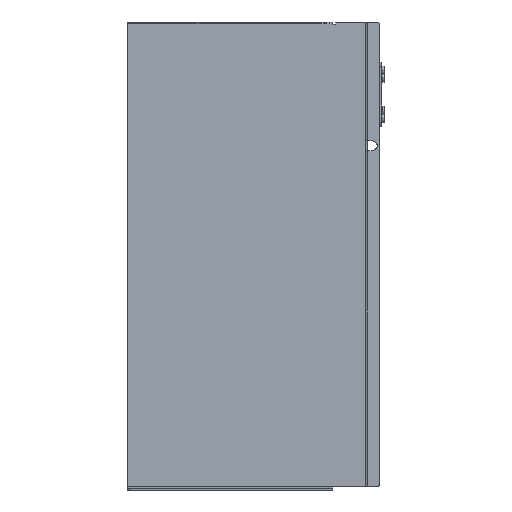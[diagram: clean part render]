
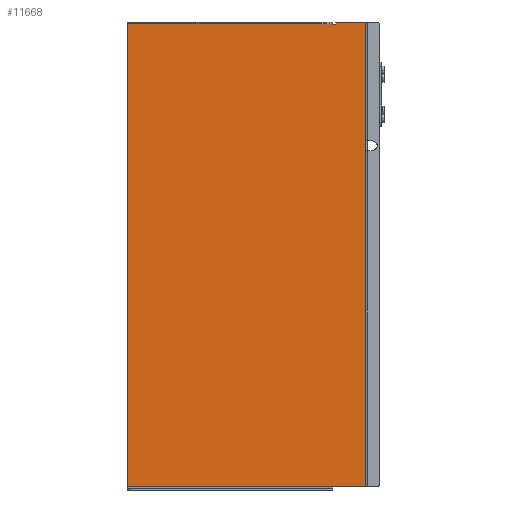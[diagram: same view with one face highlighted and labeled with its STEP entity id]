
A CAD part, left-side view. The second image highlights one B-rep face of the part: STEP entity #11668.
In plain terms, the highlighted planar face has unit normal (-1, 0, 0).
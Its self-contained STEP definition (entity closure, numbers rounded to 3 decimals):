
#205 = LINE ( 'NONE', #8840, #9049 ) ;
#212 = CARTESIAN_POINT ( 'NONE',  ( 0., 18.7, 143.5 ) ) ;
#302 = VERTEX_POINT ( 'NONE', #3885 ) ;
#480 = CARTESIAN_POINT ( 'NONE',  ( 0., 148., 145. ) ) ;
#987 = EDGE_CURVE ( 'NONE', #7783, #5165, #11604, .T. ) ;
#1216 = EDGE_CURVE ( 'NONE', #7815, #11454, #205, .T. ) ;
#1445 = VECTOR ( 'NONE', #11413, 1000. ) ;
#1520 = DIRECTION ( 'NONE',  ( 0., 0., -1. ) ) ;
#1643 = AXIS2_PLACEMENT_3D ( 'NONE', #6717, #14858, #7867 ) ;
#1827 = EDGE_CURVE ( 'NONE', #11901, #2443, #5942, .T. ) ;
#1997 = VECTOR ( 'NONE', #9707, 1000. ) ;
#2131 = VERTEX_POINT ( 'NONE', #212 ) ;
#2140 = EDGE_CURVE ( 'NONE', #12337, #7783, #5752, .T. ) ;
#2141 = VECTOR ( 'NONE', #9846, 1000. ) ;
#2443 = VERTEX_POINT ( 'NONE', #10938 ) ;
#2602 = AXIS2_PLACEMENT_3D ( 'NONE', #4836, #12979, #6000 ) ;
#2844 = DIRECTION ( 'NONE',  ( 0., 0., -1. ) ) ;
#2871 = VECTOR ( 'NONE', #14168, 1000. ) ;
#3580 = ORIENTED_EDGE ( 'NONE', *, *, #13028, .T. ) ;
#3885 = CARTESIAN_POINT ( 'NONE',  ( 0., 20.5, 143.7 ) ) ;
#4219 = ORIENTED_EDGE ( 'NONE', *, *, #8745, .T. ) ;
#4332 = LINE ( 'NONE', #4981, #10113 ) ;
#4836 = CARTESIAN_POINT ( 'NONE',  ( 0., 18.3, 144.8 ) ) ;
#4981 = CARTESIAN_POINT ( 'NONE',  ( 0., 20.5, 143.5 ) ) ;
#5017 = EDGE_CURVE ( 'NONE', #7815, #11901, #11235, .T. ) ;
#5165 = VERTEX_POINT ( 'NONE', #14616 ) ;
#5235 = DIRECTION ( 'NONE',  ( 0., -1., 0. ) ) ;
#5732 = EDGE_CURVE ( 'NONE', #2131, #6245, #4332, .T. ) ;
#5752 = CIRCLE ( 'NONE', #2602, 0.2 ) ;
#5942 = LINE ( 'NONE', #10625, #2871 ) ;
#6000 = DIRECTION ( 'NONE',  ( 0., 0., -1. ) ) ;
#6091 = CARTESIAN_POINT ( 'NONE',  ( 0., 18.7, 143.7 ) ) ;
#6152 = VECTOR ( 'NONE', #11062, 1000. ) ;
#6187 = CARTESIAN_POINT ( 'NONE',  ( 0., 148., 143.8 ) ) ;
#6245 = VERTEX_POINT ( 'NONE', #13060 ) ;
#6295 = CARTESIAN_POINT ( 'NONE',  ( 0., 20.5, 143.8 ) ) ;
#6717 = CARTESIAN_POINT ( 'NONE',  ( 0., 20.3, 143.7 ) ) ;
#6907 = ORIENTED_EDGE ( 'NONE', *, *, #5732, .T. ) ;
#7086 = CARTESIAN_POINT ( 'NONE',  ( 0., 18.5, 144.8 ) ) ;
#7215 = LINE ( 'NONE', #7957, #1445 ) ;
#7256 = DIRECTION ( 'NONE',  ( 0., 0., -1. ) ) ;
#7261 = DIRECTION ( 'NONE',  ( 0., 1., 0. ) ) ;
#7276 = CARTESIAN_POINT ( 'NONE',  ( 0., 0., 145. ) ) ;
#7586 = CARTESIAN_POINT ( 'NONE',  ( 0., 148., -144. ) ) ;
#7783 = VERTEX_POINT ( 'NONE', #13112 ) ;
#7815 = VERTEX_POINT ( 'NONE', #6187 ) ;
#7867 = DIRECTION ( 'NONE',  ( 0., 0., -1. ) ) ;
#7876 = EDGE_CURVE ( 'NONE', #11454, #302, #11501, .T. ) ;
#7957 = CARTESIAN_POINT ( 'NONE',  ( 0., 18.5, 145. ) ) ;
#8404 = VECTOR ( 'NONE', #2844, 1000. ) ;
#8433 = DIRECTION ( 'NONE',  ( -1., 0., 0. ) ) ;
#8745 = EDGE_CURVE ( 'NONE', #6245, #302, #10922, .T. ) ;
#8840 = CARTESIAN_POINT ( 'NONE',  ( 0., 0., 143.8 ) ) ;
#8943 = EDGE_CURVE ( 'NONE', #2131, #13990, #14957, .T. ) ;
#9029 = CARTESIAN_POINT ( 'NONE',  ( 0., 0., 145. ) ) ;
#9049 = VECTOR ( 'NONE', #5235, 1000. ) ;
#9360 = ORIENTED_EDGE ( 'NONE', *, *, #14036, .T. ) ;
#9386 = ORIENTED_EDGE ( 'NONE', *, *, #1216, .F. ) ;
#9699 = ORIENTED_EDGE ( 'NONE', *, *, #5017, .T. ) ;
#9707 = DIRECTION ( 'NONE',  ( 0., 0., -1. ) ) ;
#9846 = DIRECTION ( 'NONE',  ( 0., 0., 1. ) ) ;
#9977 = ORIENTED_EDGE ( 'NONE', *, *, #987, .F. ) ;
#10113 = VECTOR ( 'NONE', #7261, 1000. ) ;
#10156 = AXIS2_PLACEMENT_3D ( 'NONE', #6091, #14252, #7256 ) ;
#10357 = CARTESIAN_POINT ( 'NONE',  ( 0., 20.5, 143.8 ) ) ;
#10393 = ORIENTED_EDGE ( 'NONE', *, *, #7876, .F. ) ;
#10625 = CARTESIAN_POINT ( 'NONE',  ( 0., 20.5, -144. ) ) ;
#10922 = CIRCLE ( 'NONE', #1643, 0.2 ) ;
#10938 = CARTESIAN_POINT ( 'NONE',  ( 0., 0., -144. ) ) ;
#10975 = ORIENTED_EDGE ( 'NONE', *, *, #1827, .T. ) ;
#11001 = EDGE_LOOP ( 'NONE', ( #4219, #10393, #9386, #9699, #10975, #3580, #9977, #11238, #9360, #12168, #6907 ) ) ;
#11062 = DIRECTION ( 'NONE',  ( 0., -1., 0. ) ) ;
#11235 = LINE ( 'NONE', #480, #1997 ) ;
#11238 = ORIENTED_EDGE ( 'NONE', *, *, #2140, .F. ) ;
#11413 = DIRECTION ( 'NONE',  ( 0., 0., -1. ) ) ;
#11454 = VERTEX_POINT ( 'NONE', #10357 ) ;
#11501 = LINE ( 'NONE', #6295, #8404 ) ;
#11581 = AXIS2_PLACEMENT_3D ( 'NONE', #7276, #8433, #1520 ) ;
#11604 = LINE ( 'NONE', #9029, #6152 ) ;
#11650 = FACE_OUTER_BOUND ( 'NONE', #11001, .T. ) ;
#11668 = ADVANCED_FACE ( 'NONE', ( #11650 ), #14270, .T. ) ;
#11901 = VERTEX_POINT ( 'NONE', #7586 ) ;
#12168 = ORIENTED_EDGE ( 'NONE', *, *, #8943, .F. ) ;
#12220 = CARTESIAN_POINT ( 'NONE',  ( 0., 0., 145. ) ) ;
#12337 = VERTEX_POINT ( 'NONE', #7086 ) ;
#12513 = CARTESIAN_POINT ( 'NONE',  ( 0., 18.5, 143.7 ) ) ;
#12979 = DIRECTION ( 'NONE',  ( 1., 0., 0. ) ) ;
#13028 = EDGE_CURVE ( 'NONE', #2443, #5165, #14516, .T. ) ;
#13060 = CARTESIAN_POINT ( 'NONE',  ( 0., 20.3, 143.5 ) ) ;
#13112 = CARTESIAN_POINT ( 'NONE',  ( 0., 18.3, 145. ) ) ;
#13990 = VERTEX_POINT ( 'NONE', #12513 ) ;
#14036 = EDGE_CURVE ( 'NONE', #12337, #13990, #7215, .T. ) ;
#14168 = DIRECTION ( 'NONE',  ( 0., -1., 0. ) ) ;
#14252 = DIRECTION ( 'NONE',  ( -1., 0., 0. ) ) ;
#14270 = PLANE ( 'NONE',  #11581 ) ;
#14516 = LINE ( 'NONE', #12220, #2141 ) ;
#14616 = CARTESIAN_POINT ( 'NONE',  ( 0., 0., 145. ) ) ;
#14858 = DIRECTION ( 'NONE',  ( 1., 0., 0. ) ) ;
#14957 = CIRCLE ( 'NONE', #10156, 0.2 ) ;
